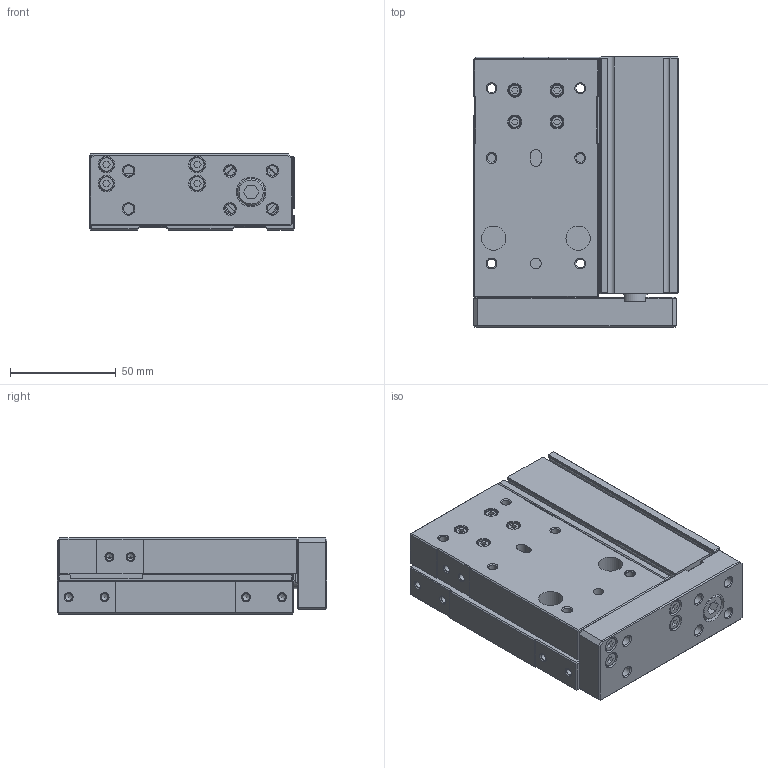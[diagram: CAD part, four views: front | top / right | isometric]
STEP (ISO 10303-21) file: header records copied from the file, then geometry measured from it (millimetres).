
FILE_DESCRIPTION((''),'2;1');
FILE_NAME('I:\3D電子目錄\氣缸\FMR(L)\FMR(L)\FMR25x50.stp','2007-10-15T16:08:24',('Administrator'),(''),'Autodesk Inventor 11','Autodesk Inventor 11','');
FILE_SCHEMA(('AUTOMOTIVE_DESIGN { 1 0 10303 214 1 1 1 1 }'));
Length unit declared in the file: millimetre
Products named in the file (1): FMR25x50
Bounding box: 97 x 127.8 x 36 mm (x, y, z)
Volume: 340442.7 mm3; surface area: 92431.5 mm2
Topology: 14 solids, 14 shells, 524 faces, 1203 edges, 755 vertices
Faces by surface type: plane 331, bspline 96, cylinder 49, cone 48
Full cylindrical faces by diameter (mm): 1.3 x2, 2 x2, 4.2 x1, 5 x2, 5.5 x4, 7 x5, 8 x1, 8.5 x1, 10 x2, 11.5 x2, 12 x3, 13 x1, 14 x1, 16 x1, 21.5 x2, 25 x3, 28 x4, 29.6 x2
Entity records: 14508 total; most frequent: CARTESIAN_POINT 3690, DIRECTION 2125, ORIENTED_EDGE 1984, EDGE_CURVE 992, EDGE_LOOP 791, AXIS2_PLACEMENT_3D 718, VERTEX_POINT 701, VECTOR 689
